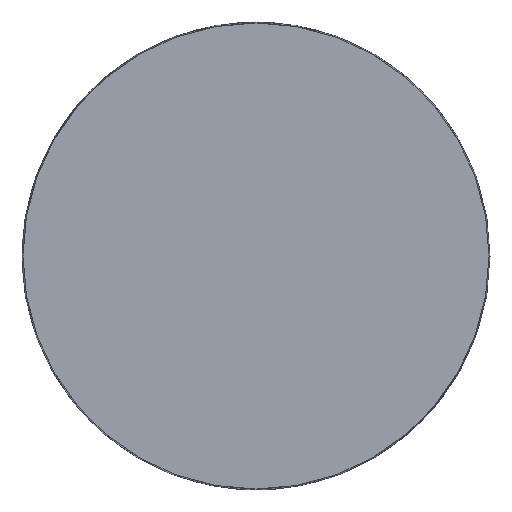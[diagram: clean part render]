
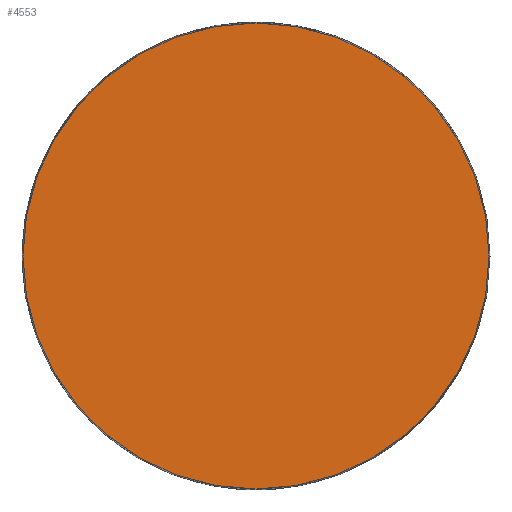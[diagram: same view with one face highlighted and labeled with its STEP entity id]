
A CAD part, front view. The second image highlights one B-rep face of the part: STEP entity #4553.
In plain terms, the highlighted planar face has unit normal (0, -1, 0).
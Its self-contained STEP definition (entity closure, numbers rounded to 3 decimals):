
#4481=CARTESIAN_POINT('',(0.,-51.02,0.));
#4482=DIRECTION('',(0.,1.,0.));
#4483=DIRECTION('',(1.,0.,0.));
#4484=AXIS2_PLACEMENT_3D('',#4481,#4482,#4483);
#4486=CARTESIAN_POINT('',(0.,-51.02,0.));
#4487=DIRECTION('',(0.,1.,0.));
#4488=DIRECTION('',(-1.,0.,0.));
#4489=AXIS2_PLACEMENT_3D('',#4486,#4487,#4488);
#4502=CARTESIAN_POINT('',(-124.476,-51.02,0.));
#4503=VERTEX_POINT('',#4502);
#4504=CARTESIAN_POINT('',(124.476,-51.02,0.));
#4505=VERTEX_POINT('',#4504);
#4544=CARTESIAN_POINT('',(0.,-51.02,0.));
#4545=DIRECTION('',(0.,-1.,0.));
#4546=DIRECTION('',(1.,0.,0.));
#4547=AXIS2_PLACEMENT_3D('',#4544,#4545,#4546);
#4548=PLANE('',#4547);
#4549=ORIENTED_EDGE('',*,*,#4528,.T.);
#4550=ORIENTED_EDGE('',*,*,#4513,.T.);
#4551=EDGE_LOOP('',(#4549,#4550));
#4552=FACE_OUTER_BOUND('',#4551,.F.);
#4553=ADVANCED_FACE('',(#4552),#4548,.T.);
#4485=CIRCLE('',#4484,124.476);
#4490=CIRCLE('',#4489,124.476);
#4513=EDGE_CURVE('',#4503,#4505,#4490,.T.);
#4528=EDGE_CURVE('',#4505,#4503,#4485,.T.);
